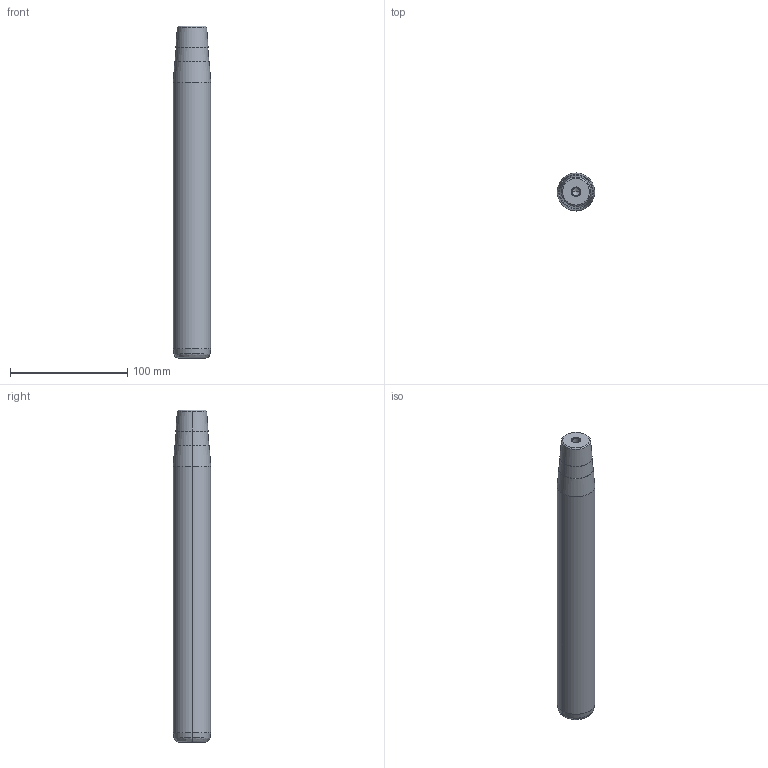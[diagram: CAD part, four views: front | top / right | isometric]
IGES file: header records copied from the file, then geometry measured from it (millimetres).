
Start section: START RECORD GO HERE.
Global section: file name: 722-32x250x283.igs; native system: DASSAULT SYSTEMES CATIA V5 R20 - www.3ds.com; preprocessor: CATIA Version 5 Release 20 ; author: Utente; organization: NB04-ASUS; date: 20210108.170820; units: millimetre
Bounding box: 32 x 32 x 283 mm (x, y, z)
Surface area: 30025 mm2 (no closed solid volume)
Topology: 0 solids, 0 shells, 32 faces, 128 edges, 124 vertices
Faces by surface type: revolution 30, plane 2
